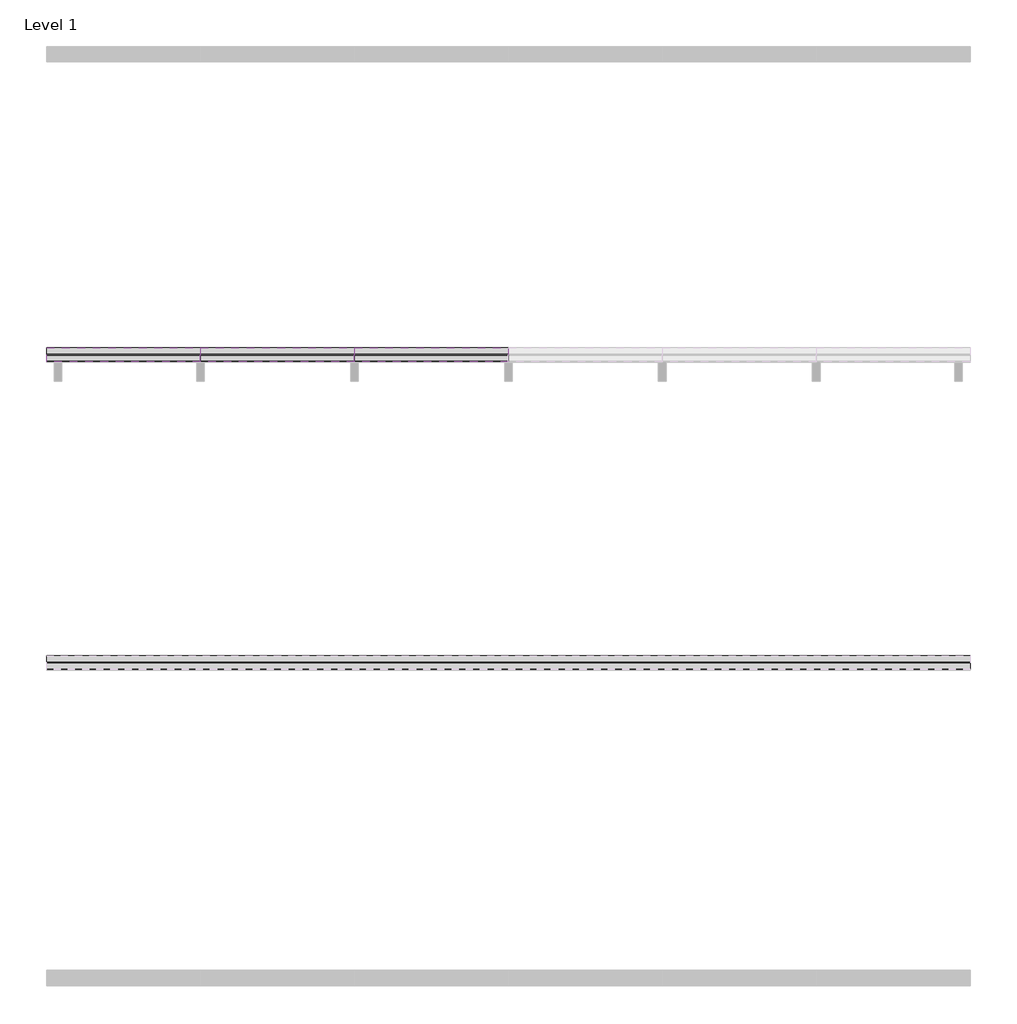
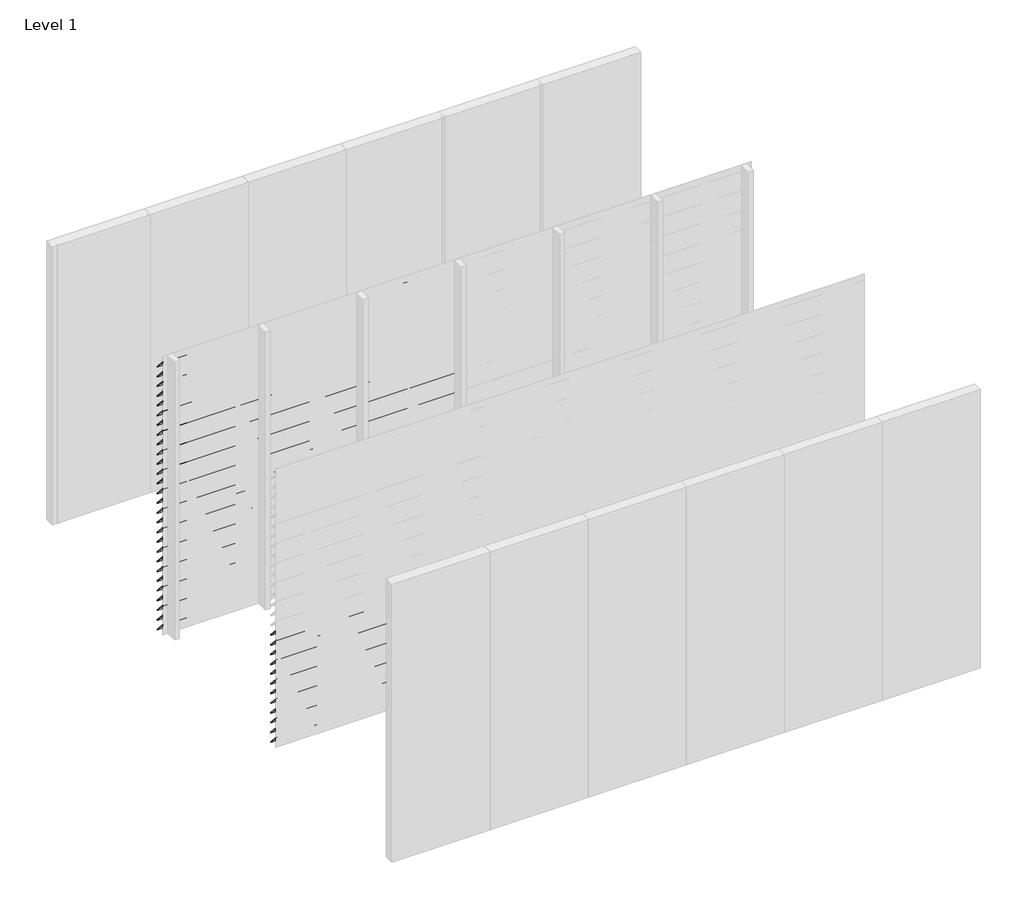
# One storey, part 2 of 9: 94 proxies.
"""IFC4 building model written with IfcOpenShell, lengths in millimetres."""

from ifc_helpers import new_model, si_unit, frame, origin, place, context, project, spatial, polyline, outline, extrude, element, save

model = new_model("IFC4")

# Units and contexts
model_context = context("Model", 3, world=origin())
ifc_project = project(units=[si_unit("LENGTHUNIT", "METRE", prefix="MILLI")], contexts=[model_context])

# Site, building, storey
site = spatial("IfcSite", under=ifc_project)
building = spatial("IfcBuilding", under=site)
storey = spatial("IfcBuildingStorey", under=building, Name="Level 1", Elevation=0.0)

# Proxies
placement = place(None, origin())
element("IfcBuildingElementProxy", 1, Name="Wall Sweeps", at=placement, inside=storey, context=model_context, shape_type="SweptSolid", body=[
    extrude(outline(polyline([(-17995.0, 2940.0), (-17995.0, 2935.6232888), (-17908.0, 2839.0), (-17908.0, 2829.0), (-17997.0, 2927.8445138), (-17997.0, 2940.0), (-17995.0, 2940.0)])), frame((2000.0000001, 0.0, 0.0), z_axis=(1.0, 0.0, 0.0), x_axis=(0.0, 1.0, 0.0)), (0.0, 0.0, 1.0), 999.9999999),
])
element("IfcBuildingElementProxy", 2, Name="Wall Sweeps", at=placement, inside=storey, context=model_context, shape_type="SweptSolid", body=[
    extrude(outline(polyline([(-17995.0, 2835.0), (-17995.0, 2830.6232888), (-17908.0, 2734.0), (-17908.0, 2724.0), (-17997.0, 2822.8445138), (-17997.0, 2835.0), (-17995.0, 2835.0)])), frame((2000.0000001, 0.0, 0.0), z_axis=(1.0, 0.0, 0.0), x_axis=(0.0, 1.0, 0.0)), (0.0, 0.0, 1.0), 999.9999999),
])
element("IfcBuildingElementProxy", 3, Name="Wall Sweeps", at=placement, inside=storey, context=model_context, shape_type="SweptSolid", body=[
    extrude(outline(polyline([(-17995.0, 2730.0), (-17995.0, 2725.6232888), (-17908.0, 2629.0), (-17908.0, 2619.0), (-17997.0, 2717.8445138), (-17997.0, 2730.0), (-17995.0, 2730.0)])), frame((2000.0000001, 0.0, 0.0), z_axis=(1.0, 0.0, 0.0), x_axis=(0.0, 1.0, 0.0)), (0.0, 0.0, 1.0), 999.9999999),
])
element("IfcBuildingElementProxy", 4, Name="Wall Sweeps", at=placement, inside=storey, context=model_context, shape_type="SweptSolid", body=[
    extrude(outline(polyline([(-17995.0, 2625.0), (-17995.0, 2620.6232888), (-17908.0, 2524.0), (-17908.0, 2514.0), (-17997.0, 2612.8445138), (-17997.0, 2625.0), (-17995.0, 2625.0)])), frame((2000.0000001, 0.0, 0.0), z_axis=(1.0, 0.0, 0.0), x_axis=(0.0, 1.0, 0.0)), (0.0, 0.0, 1.0), 999.9999999),
])
element("IfcBuildingElementProxy", 5, Name="Wall Sweeps", at=placement, inside=storey, context=model_context, shape_type="SweptSolid", body=[
    extrude(outline(polyline([(-17995.0, 2520.0), (-17995.0, 2515.6232888), (-17908.0, 2419.0), (-17908.0, 2409.0), (-17997.0, 2507.8445138), (-17997.0, 2520.0), (-17995.0, 2520.0)])), frame((2000.0000001, 0.0, 0.0), z_axis=(1.0, 0.0, 0.0), x_axis=(0.0, 1.0, 0.0)), (0.0, 0.0, 1.0), 999.9999999),
])
element("IfcBuildingElementProxy", 6, Name="Wall Sweeps", at=placement, inside=storey, context=model_context, shape_type="SweptSolid", body=[
    extrude(outline(polyline([(-17995.0, 2415.0), (-17995.0, 2410.6232888), (-17908.0, 2314.0), (-17908.0, 2304.0), (-17997.0, 2402.8445138), (-17997.0, 2415.0), (-17995.0, 2415.0)])), frame((2000.0000001, 0.0, 0.0), z_axis=(1.0, 0.0, 0.0), x_axis=(0.0, 1.0, 0.0)), (0.0, 0.0, 1.0), 999.9999999),
])
element("IfcBuildingElementProxy", 7, Name="Wall Sweeps", at=placement, inside=storey, context=model_context, shape_type="SweptSolid", body=[
    extrude(outline(polyline([(-17995.0, 2310.0), (-17995.0, 2305.6232888), (-17908.0, 2209.0), (-17908.0, 2199.0), (-17997.0, 2297.8445138), (-17997.0, 2310.0), (-17995.0, 2310.0)])), frame((2000.0000001, 0.0, 0.0), z_axis=(1.0, 0.0, 0.0), x_axis=(0.0, 1.0, 0.0)), (0.0, 0.0, 1.0), 999.9999999),
])
element("IfcBuildingElementProxy", 8, Name="Wall Sweeps", at=placement, inside=storey, context=model_context, shape_type="SweptSolid", body=[
    extrude(outline(polyline([(-17995.0, 2205.0), (-17995.0, 2200.6232888), (-17908.0, 2104.0), (-17908.0, 2094.0), (-17997.0, 2192.8445138), (-17997.0, 2205.0), (-17995.0, 2205.0)])), frame((2000.0000001, 0.0, 0.0), z_axis=(1.0, 0.0, 0.0), x_axis=(0.0, 1.0, 0.0)), (0.0, 0.0, 1.0), 999.9999999),
])
element("IfcBuildingElementProxy", 9, Name="Wall Sweeps", at=placement, inside=storey, context=model_context, shape_type="SweptSolid", body=[
    extrude(outline(polyline([(-17995.0, 2100.0), (-17995.0, 2095.6232888), (-17908.0, 1999.0), (-17908.0, 1989.0), (-17997.0, 2087.8445138), (-17997.0, 2100.0), (-17995.0, 2100.0)])), frame((2000.0000001, 0.0, 0.0), z_axis=(1.0, 0.0, 0.0), x_axis=(0.0, 1.0, 0.0)), (0.0, 0.0, 1.0), 999.9999999),
])
element("IfcBuildingElementProxy", 10, Name="Wall Sweeps", at=placement, inside=storey, context=model_context, shape_type="SweptSolid", body=[
    extrude(outline(polyline([(-17995.0, 1995.0), (-17995.0, 1990.6232888), (-17908.0, 1894.0), (-17908.0, 1884.0), (-17997.0, 1982.8445138), (-17997.0, 1995.0), (-17995.0, 1995.0)])), frame((2000.0000001, 0.0, 0.0), z_axis=(1.0, 0.0, 0.0), x_axis=(0.0, 1.0, 0.0)), (0.0, 0.0, 1.0), 999.9999999),
])
element("IfcBuildingElementProxy", 11, Name="Wall Sweeps", at=placement, inside=storey, context=model_context, shape_type="SweptSolid", body=[
    extrude(outline(polyline([(-17995.0, 1890.0), (-17995.0, 1885.6232888), (-17908.0, 1789.0), (-17908.0, 1779.0), (-17997.0, 1877.8445138), (-17997.0, 1890.0), (-17995.0, 1890.0)])), frame((2000.0000001, 0.0, 0.0), z_axis=(1.0, 0.0, 0.0), x_axis=(0.0, 1.0, 0.0)), (0.0, 0.0, 1.0), 999.9999999),
])
element("IfcBuildingElementProxy", 12, Name="Wall Sweeps", at=placement, inside=storey, context=model_context, shape_type="SweptSolid", body=[
    extrude(outline(polyline([(-17995.0, 1785.0), (-17995.0, 1780.6232888), (-17908.0, 1684.0), (-17908.0, 1674.0), (-17997.0, 1772.8445138), (-17997.0, 1785.0), (-17995.0, 1785.0)])), frame((2000.0000001, 0.0, 0.0), z_axis=(1.0, 0.0, 0.0), x_axis=(0.0, 1.0, 0.0)), (0.0, 0.0, 1.0), 999.9999999),
])
element("IfcBuildingElementProxy", 13, Name="Wall Sweeps", at=placement, inside=storey, context=model_context, shape_type="SweptSolid", body=[
    extrude(outline(polyline([(-17995.0, 1680.0), (-17995.0, 1675.6232888), (-17908.0, 1579.0), (-17908.0, 1569.0), (-17997.0, 1667.8445138), (-17997.0, 1680.0), (-17995.0, 1680.0)])), frame((2000.0000001, 0.0, 0.0), z_axis=(1.0, 0.0, 0.0), x_axis=(0.0, 1.0, 0.0)), (0.0, 0.0, 1.0), 999.9999999),
])
element("IfcBuildingElementProxy", 14, Name="Wall Sweeps", at=placement, inside=storey, context=model_context, shape_type="SweptSolid", body=[
    extrude(outline(polyline([(-17995.0, 1575.0), (-17995.0, 1570.6232888), (-17908.0, 1474.0), (-17908.0, 1464.0), (-17997.0, 1562.8445138), (-17997.0, 1575.0), (-17995.0, 1575.0)])), frame((2000.0000001, 0.0, 0.0), z_axis=(1.0, 0.0, 0.0), x_axis=(0.0, 1.0, 0.0)), (0.0, 0.0, 1.0), 999.9999999),
])
element("IfcBuildingElementProxy", 15, Name="Wall Sweeps", at=placement, inside=storey, context=model_context, shape_type="SweptSolid", body=[
    extrude(outline(polyline([(-17995.0, 1470.0), (-17995.0, 1465.6232888), (-17908.0, 1369.0), (-17908.0, 1359.0), (-17997.0, 1457.8445138), (-17997.0, 1470.0), (-17995.0, 1470.0)])), frame((2000.0000001, 0.0, 0.0), z_axis=(1.0, 0.0, 0.0), x_axis=(0.0, 1.0, 0.0)), (0.0, 0.0, 1.0), 999.9999999),
])
element("IfcBuildingElementProxy", 16, Name="Wall Sweeps", at=placement, inside=storey, context=model_context, shape_type="SweptSolid", body=[
    extrude(outline(polyline([(-17995.0, 1365.0), (-17995.0, 1360.6232888), (-17908.0, 1264.0), (-17908.0, 1254.0), (-17997.0, 1352.8445138), (-17997.0, 1365.0), (-17995.0, 1365.0)])), frame((2000.0000001, 0.0, 0.0), z_axis=(1.0, 0.0, 0.0), x_axis=(0.0, 1.0, 0.0)), (0.0, 0.0, 1.0), 999.9999999),
])
element("IfcBuildingElementProxy", 17, Name="Wall Sweeps", at=placement, inside=storey, context=model_context, shape_type="SweptSolid", body=[
    extrude(outline(polyline([(-17995.0, 1260.0), (-17995.0, 1255.6232888), (-17908.0, 1159.0), (-17908.0, 1149.0), (-17997.0, 1247.8445138), (-17997.0, 1260.0), (-17995.0, 1260.0)])), frame((2000.0000001, 0.0, 0.0), z_axis=(1.0, 0.0, 0.0), x_axis=(0.0, 1.0, 0.0)), (0.0, 0.0, 1.0), 999.9999999),
])
element("IfcBuildingElementProxy", 18, Name="Wall Sweeps", at=placement, inside=storey, context=model_context, shape_type="SweptSolid", body=[
    extrude(outline(polyline([(-17995.0, 1155.0), (-17995.0, 1150.6232888), (-17908.0, 1054.0), (-17908.0, 1044.0), (-17997.0, 1142.8445138), (-17997.0, 1155.0), (-17995.0, 1155.0)])), frame((2000.0000001, 0.0, 0.0), z_axis=(1.0, 0.0, 0.0), x_axis=(0.0, 1.0, 0.0)), (0.0, 0.0, 1.0), 999.9999999),
])
element("IfcBuildingElementProxy", 19, Name="Wall Sweeps", at=placement, inside=storey, context=model_context, shape_type="SweptSolid", body=[
    extrude(outline(polyline([(-17995.0, 1050.0), (-17995.0, 1045.6232888), (-17908.0, 949.0), (-17908.0, 939.0), (-17997.0, 1037.8445138), (-17997.0, 1050.0), (-17995.0, 1050.0)])), frame((2000.0000001, 0.0, 0.0), z_axis=(1.0, 0.0, 0.0), x_axis=(0.0, 1.0, 0.0)), (0.0, 0.0, 1.0), 999.9999999),
])
element("IfcBuildingElementProxy", 20, Name="Wall Sweeps", at=placement, inside=storey, context=model_context, shape_type="SweptSolid", body=[
    extrude(outline(polyline([(-17995.0, 945.0), (-17995.0, 940.6232888), (-17908.0, 844.0), (-17908.0, 834.0), (-17997.0, 932.8445138), (-17997.0, 945.0), (-17995.0, 945.0)])), frame((2000.0000001, 0.0, 0.0), z_axis=(1.0, 0.0, 0.0), x_axis=(0.0, 1.0, 0.0)), (0.0, 0.0, 1.0), 999.9999999),
])
element("IfcBuildingElementProxy", 21, Name="Wall Sweeps", at=placement, inside=storey, context=model_context, shape_type="SweptSolid", body=[
    extrude(outline(polyline([(-17995.0, 840.0), (-17995.0, 835.6232888), (-17908.0, 739.0), (-17908.0, 729.0), (-17997.0, 827.8445138), (-17997.0, 840.0), (-17995.0, 840.0)])), frame((2000.0000001, 0.0, 0.0), z_axis=(1.0, 0.0, 0.0), x_axis=(0.0, 1.0, 0.0)), (0.0, 0.0, 1.0), 999.9999999),
])
element("IfcBuildingElementProxy", 22, Name="Wall Sweeps", at=placement, inside=storey, context=model_context, shape_type="SweptSolid", body=[
    extrude(outline(polyline([(-17995.0, 735.0), (-17995.0, 730.6232888), (-17908.0, 634.0), (-17908.0, 624.0), (-17997.0, 722.8445138), (-17997.0, 735.0), (-17995.0, 735.0)])), frame((2000.0000001, 0.0, 0.0), z_axis=(1.0, 0.0, 0.0), x_axis=(0.0, 1.0, 0.0)), (0.0, 0.0, 1.0), 999.9999999),
])
element("IfcBuildingElementProxy", 23, Name="Wall Sweeps", at=placement, inside=storey, context=model_context, shape_type="SweptSolid", body=[
    extrude(outline(polyline([(-17995.0, 630.0), (-17995.0, 625.6232888), (-17908.0, 529.0), (-17908.0, 519.0), (-17997.0, 617.8445138), (-17997.0, 630.0), (-17995.0, 630.0)])), frame((2000.0000001, 0.0, 0.0), z_axis=(1.0, 0.0, 0.0), x_axis=(0.0, 1.0, 0.0)), (0.0, 0.0, 1.0), 999.9999999),
])
element("IfcBuildingElementProxy", 24, Name="Wall Sweeps", at=placement, inside=storey, context=model_context, shape_type="SweptSolid", body=[
    extrude(outline(polyline([(-17995.0, 525.0), (-17995.0, 520.6232888), (-17908.0, 424.0), (-17908.0, 414.0), (-17997.0, 512.8445138), (-17997.0, 525.0), (-17995.0, 525.0)])), frame((2000.0000001, 0.0, 0.0), z_axis=(1.0, 0.0, 0.0), x_axis=(0.0, 1.0, 0.0)), (0.0, 0.0, 1.0), 999.9999999),
])
element("IfcBuildingElementProxy", 25, Name="Wall Sweeps", at=placement, inside=storey, context=model_context, shape_type="SweptSolid", body=[
    extrude(outline(polyline([(-17995.0, 420.0), (-17995.0, 415.6232888), (-17908.0, 319.0), (-17908.0, 309.0), (-17997.0, 407.8445138), (-17997.0, 420.0), (-17995.0, 420.0)])), frame((2000.0000001, 0.0, 0.0), z_axis=(1.0, 0.0, 0.0), x_axis=(0.0, 1.0, 0.0)), (0.0, 0.0, 1.0), 999.9999999),
])
element("IfcBuildingElementProxy", 26, Name="Wall Sweeps", at=placement, inside=storey, context=model_context, shape_type="SweptSolid", body=[
    extrude(outline(polyline([(-17995.0, 315.0), (-17995.0, 310.6232888), (-17908.0, 214.0), (-17908.0, 204.0), (-17997.0, 302.8445138), (-17997.0, 315.0), (-17995.0, 315.0)])), frame((2000.0000001, 0.0, 0.0), z_axis=(1.0, 0.0, 0.0), x_axis=(0.0, 1.0, 0.0)), (0.0, 0.0, 1.0), 999.9999999),
])
element("IfcBuildingElementProxy", 27, Name="Wall Sweeps", at=placement, inside=storey, context=model_context, shape_type="SweptSolid", body=[
    extrude(outline(polyline([(-17995.0, 2940.0), (-17995.0, 2935.6232888), (-17908.0, 2839.0), (-17908.0, 2829.0), (-17997.0, 2927.8445138), (-17997.0, 2940.0), (-17995.0, 2940.0)])), frame((1000.0000002, 0.0, 0.0), z_axis=(1.0, 0.0, 0.0), x_axis=(0.0, 1.0, 0.0)), (0.0, 0.0, 1.0), 999.9999999),
])
element("IfcBuildingElementProxy", 28, Name="Wall Sweeps", at=placement, inside=storey, context=model_context, shape_type="SweptSolid", body=[
    extrude(outline(polyline([(-17995.0, 2835.0), (-17995.0, 2830.6232888), (-17908.0, 2734.0), (-17908.0, 2724.0), (-17997.0, 2822.8445138), (-17997.0, 2835.0), (-17995.0, 2835.0)])), frame((1000.0000002, 0.0, 0.0), z_axis=(1.0, 0.0, 0.0), x_axis=(0.0, 1.0, 0.0)), (0.0, 0.0, 1.0), 999.9999999),
])
element("IfcBuildingElementProxy", 29, Name="Wall Sweeps", at=placement, inside=storey, context=model_context, shape_type="SweptSolid", body=[
    extrude(outline(polyline([(-17995.0, 2730.0), (-17995.0, 2725.6232888), (-17908.0, 2629.0), (-17908.0, 2619.0), (-17997.0, 2717.8445138), (-17997.0, 2730.0), (-17995.0, 2730.0)])), frame((1000.0000002, 0.0, 0.0), z_axis=(1.0, 0.0, 0.0), x_axis=(0.0, 1.0, 0.0)), (0.0, 0.0, 1.0), 999.9999999),
])
element("IfcBuildingElementProxy", 30, Name="Wall Sweeps", at=placement, inside=storey, context=model_context, shape_type="SweptSolid", body=[
    extrude(outline(polyline([(-17995.0, 2625.0), (-17995.0, 2620.6232888), (-17908.0, 2524.0), (-17908.0, 2514.0), (-17997.0, 2612.8445138), (-17997.0, 2625.0), (-17995.0, 2625.0)])), frame((1000.0000002, 0.0, 0.0), z_axis=(1.0, 0.0, 0.0), x_axis=(0.0, 1.0, 0.0)), (0.0, 0.0, 1.0), 999.9999999),
])
element("IfcBuildingElementProxy", 31, Name="Wall Sweeps", at=placement, inside=storey, context=model_context, shape_type="SweptSolid", body=[
    extrude(outline(polyline([(-17995.0, 2520.0), (-17995.0, 2515.6232888), (-17908.0, 2419.0), (-17908.0, 2409.0), (-17997.0, 2507.8445138), (-17997.0, 2520.0), (-17995.0, 2520.0)])), frame((1000.0000002, 0.0, 0.0), z_axis=(1.0, 0.0, 0.0), x_axis=(0.0, 1.0, 0.0)), (0.0, 0.0, 1.0), 999.9999999),
])
element("IfcBuildingElementProxy", 32, Name="Wall Sweeps", at=placement, inside=storey, context=model_context, shape_type="SweptSolid", body=[
    extrude(outline(polyline([(-17995.0, 2415.0), (-17995.0, 2410.6232888), (-17908.0, 2314.0), (-17908.0, 2304.0), (-17997.0, 2402.8445138), (-17997.0, 2415.0), (-17995.0, 2415.0)])), frame((1000.0000002, 0.0, 0.0), z_axis=(1.0, 0.0, 0.0), x_axis=(0.0, 1.0, 0.0)), (0.0, 0.0, 1.0), 999.9999999),
])
element("IfcBuildingElementProxy", 33, Name="Wall Sweeps", at=placement, inside=storey, context=model_context, shape_type="SweptSolid", body=[
    extrude(outline(polyline([(-17995.0, 2310.0), (-17995.0, 2305.6232888), (-17908.0, 2209.0), (-17908.0, 2199.0), (-17997.0, 2297.8445138), (-17997.0, 2310.0), (-17995.0, 2310.0)])), frame((1000.0000002, 0.0, 0.0), z_axis=(1.0, 0.0, 0.0), x_axis=(0.0, 1.0, 0.0)), (0.0, 0.0, 1.0), 999.9999999),
])
element("IfcBuildingElementProxy", 34, Name="Wall Sweeps", at=placement, inside=storey, context=model_context, shape_type="SweptSolid", body=[
    extrude(outline(polyline([(-17995.0, 2205.0), (-17995.0, 2200.6232888), (-17908.0, 2104.0), (-17908.0, 2094.0), (-17997.0, 2192.8445138), (-17997.0, 2205.0), (-17995.0, 2205.0)])), frame((1000.0000002, 0.0, 0.0), z_axis=(1.0, 0.0, 0.0), x_axis=(0.0, 1.0, 0.0)), (0.0, 0.0, 1.0), 999.9999999),
])
element("IfcBuildingElementProxy", 35, Name="Wall Sweeps", at=placement, inside=storey, context=model_context, shape_type="SweptSolid", body=[
    extrude(outline(polyline([(-17995.0, 2100.0), (-17995.0, 2095.6232888), (-17908.0, 1999.0), (-17908.0, 1989.0), (-17997.0, 2087.8445138), (-17997.0, 2100.0), (-17995.0, 2100.0)])), frame((1000.0000002, 0.0, 0.0), z_axis=(1.0, 0.0, 0.0), x_axis=(0.0, 1.0, 0.0)), (0.0, 0.0, 1.0), 999.9999999),
])
element("IfcBuildingElementProxy", 36, Name="Wall Sweeps", at=placement, inside=storey, context=model_context, shape_type="SweptSolid", body=[
    extrude(outline(polyline([(-17995.0, 1995.0), (-17995.0, 1990.6232888), (-17908.0, 1894.0), (-17908.0, 1884.0), (-17997.0, 1982.8445138), (-17997.0, 1995.0), (-17995.0, 1995.0)])), frame((1000.0000002, 0.0, 0.0), z_axis=(1.0, 0.0, 0.0), x_axis=(0.0, 1.0, 0.0)), (0.0, 0.0, 1.0), 999.9999999),
])
element("IfcBuildingElementProxy", 37, Name="Wall Sweeps", at=placement, inside=storey, context=model_context, shape_type="SweptSolid", body=[
    extrude(outline(polyline([(-17995.0, 1890.0), (-17995.0, 1885.6232888), (-17908.0, 1789.0), (-17908.0, 1779.0), (-17997.0, 1877.8445138), (-17997.0, 1890.0), (-17995.0, 1890.0)])), frame((1000.0000002, 0.0, 0.0), z_axis=(1.0, 0.0, 0.0), x_axis=(0.0, 1.0, 0.0)), (0.0, 0.0, 1.0), 999.9999999),
])
element("IfcBuildingElementProxy", 38, Name="Wall Sweeps", at=placement, inside=storey, context=model_context, shape_type="SweptSolid", body=[
    extrude(outline(polyline([(-17995.0, 1785.0), (-17995.0, 1780.6232888), (-17908.0, 1684.0), (-17908.0, 1674.0), (-17997.0, 1772.8445138), (-17997.0, 1785.0), (-17995.0, 1785.0)])), frame((1000.0000002, 0.0, 0.0), z_axis=(1.0, 0.0, 0.0), x_axis=(0.0, 1.0, 0.0)), (0.0, 0.0, 1.0), 999.9999999),
])
element("IfcBuildingElementProxy", 39, Name="Wall Sweeps", at=placement, inside=storey, context=model_context, shape_type="SweptSolid", body=[
    extrude(outline(polyline([(-17995.0, 1680.0), (-17995.0, 1675.6232888), (-17908.0, 1579.0), (-17908.0, 1569.0), (-17997.0, 1667.8445138), (-17997.0, 1680.0), (-17995.0, 1680.0)])), frame((1000.0000002, 0.0, 0.0), z_axis=(1.0, 0.0, 0.0), x_axis=(0.0, 1.0, 0.0)), (0.0, 0.0, 1.0), 999.9999999),
])
element("IfcBuildingElementProxy", 40, Name="Wall Sweeps", at=placement, inside=storey, context=model_context, shape_type="SweptSolid", body=[
    extrude(outline(polyline([(-17995.0, 1575.0), (-17995.0, 1570.6232888), (-17908.0, 1474.0), (-17908.0, 1464.0), (-17997.0, 1562.8445138), (-17997.0, 1575.0), (-17995.0, 1575.0)])), frame((1000.0000002, 0.0, 0.0), z_axis=(1.0, 0.0, 0.0), x_axis=(0.0, 1.0, 0.0)), (0.0, 0.0, 1.0), 999.9999999),
])
element("IfcBuildingElementProxy", 41, Name="Wall Sweeps", at=placement, inside=storey, context=model_context, shape_type="SweptSolid", body=[
    extrude(outline(polyline([(-17995.0, 1470.0), (-17995.0, 1465.6232888), (-17908.0, 1369.0), (-17908.0, 1359.0), (-17997.0, 1457.8445138), (-17997.0, 1470.0), (-17995.0, 1470.0)])), frame((1000.0000002, 0.0, 0.0), z_axis=(1.0, 0.0, 0.0), x_axis=(0.0, 1.0, 0.0)), (0.0, 0.0, 1.0), 999.9999999),
])
element("IfcBuildingElementProxy", 42, Name="Wall Sweeps", at=placement, inside=storey, context=model_context, shape_type="SweptSolid", body=[
    extrude(outline(polyline([(-17995.0, 1365.0), (-17995.0, 1360.6232888), (-17908.0, 1264.0), (-17908.0, 1254.0), (-17997.0, 1352.8445138), (-17997.0, 1365.0), (-17995.0, 1365.0)])), frame((1000.0000002, 0.0, 0.0), z_axis=(1.0, 0.0, 0.0), x_axis=(0.0, 1.0, 0.0)), (0.0, 0.0, 1.0), 999.9999999),
])
element("IfcBuildingElementProxy", 43, Name="Wall Sweeps", at=placement, inside=storey, context=model_context, shape_type="SweptSolid", body=[
    extrude(outline(polyline([(-17995.0, 1260.0), (-17995.0, 1255.6232888), (-17908.0, 1159.0), (-17908.0, 1149.0), (-17997.0, 1247.8445138), (-17997.0, 1260.0), (-17995.0, 1260.0)])), frame((1000.0000002, 0.0, 0.0), z_axis=(1.0, 0.0, 0.0), x_axis=(0.0, 1.0, 0.0)), (0.0, 0.0, 1.0), 999.9999999),
])
element("IfcBuildingElementProxy", 44, Name="Wall Sweeps", at=placement, inside=storey, context=model_context, shape_type="SweptSolid", body=[
    extrude(outline(polyline([(-17995.0, 1155.0), (-17995.0, 1150.6232888), (-17908.0, 1054.0), (-17908.0, 1044.0), (-17997.0, 1142.8445138), (-17997.0, 1155.0), (-17995.0, 1155.0)])), frame((1000.0000002, 0.0, 0.0), z_axis=(1.0, 0.0, 0.0), x_axis=(0.0, 1.0, 0.0)), (0.0, 0.0, 1.0), 999.9999999),
])
element("IfcBuildingElementProxy", 45, Name="Wall Sweeps", at=placement, inside=storey, context=model_context, shape_type="SweptSolid", body=[
    extrude(outline(polyline([(-17995.0, 1050.0), (-17995.0, 1045.6232888), (-17908.0, 949.0), (-17908.0, 939.0), (-17997.0, 1037.8445138), (-17997.0, 1050.0), (-17995.0, 1050.0)])), frame((1000.0000002, 0.0, 0.0), z_axis=(1.0, 0.0, 0.0), x_axis=(0.0, 1.0, 0.0)), (0.0, 0.0, 1.0), 999.9999999),
])
element("IfcBuildingElementProxy", 46, Name="Wall Sweeps", at=placement, inside=storey, context=model_context, shape_type="SweptSolid", body=[
    extrude(outline(polyline([(-17995.0, 945.0), (-17995.0, 940.6232888), (-17908.0, 844.0), (-17908.0, 834.0), (-17997.0, 932.8445138), (-17997.0, 945.0), (-17995.0, 945.0)])), frame((1000.0000002, 0.0, 0.0), z_axis=(1.0, 0.0, 0.0), x_axis=(0.0, 1.0, 0.0)), (0.0, 0.0, 1.0), 999.9999999),
])
element("IfcBuildingElementProxy", 47, Name="Wall Sweeps", at=placement, inside=storey, context=model_context, shape_type="SweptSolid", body=[
    extrude(outline(polyline([(-17995.0, 840.0), (-17995.0, 835.6232888), (-17908.0, 739.0), (-17908.0, 729.0), (-17997.0, 827.8445138), (-17997.0, 840.0), (-17995.0, 840.0)])), frame((1000.0000002, 0.0, 0.0), z_axis=(1.0, 0.0, 0.0), x_axis=(0.0, 1.0, 0.0)), (0.0, 0.0, 1.0), 999.9999999),
])
element("IfcBuildingElementProxy", 48, Name="Wall Sweeps", at=placement, inside=storey, context=model_context, shape_type="SweptSolid", body=[
    extrude(outline(polyline([(-17995.0, 735.0), (-17995.0, 730.6232888), (-17908.0, 634.0), (-17908.0, 624.0), (-17997.0, 722.8445138), (-17997.0, 735.0), (-17995.0, 735.0)])), frame((1000.0000002, 0.0, 0.0), z_axis=(1.0, 0.0, 0.0), x_axis=(0.0, 1.0, 0.0)), (0.0, 0.0, 1.0), 999.9999999),
])
element("IfcBuildingElementProxy", 49, Name="Wall Sweeps", at=placement, inside=storey, context=model_context, shape_type="SweptSolid", body=[
    extrude(outline(polyline([(-17995.0, 630.0), (-17995.0, 625.6232888), (-17908.0, 529.0), (-17908.0, 519.0), (-17997.0, 617.8445138), (-17997.0, 630.0), (-17995.0, 630.0)])), frame((1000.0000002, 0.0, 0.0), z_axis=(1.0, 0.0, 0.0), x_axis=(0.0, 1.0, 0.0)), (0.0, 0.0, 1.0), 999.9999999),
])
element("IfcBuildingElementProxy", 50, Name="Wall Sweeps", at=placement, inside=storey, context=model_context, shape_type="SweptSolid", body=[
    extrude(outline(polyline([(-17995.0, 525.0), (-17995.0, 520.6232888), (-17908.0, 424.0), (-17908.0, 414.0), (-17997.0, 512.8445138), (-17997.0, 525.0), (-17995.0, 525.0)])), frame((1000.0000002, 0.0, 0.0), z_axis=(1.0, 0.0, 0.0), x_axis=(0.0, 1.0, 0.0)), (0.0, 0.0, 1.0), 999.9999999),
])
element("IfcBuildingElementProxy", 51, Name="Wall Sweeps", at=placement, inside=storey, context=model_context, shape_type="SweptSolid", body=[
    extrude(outline(polyline([(-17995.0, 420.0), (-17995.0, 415.6232888), (-17908.0, 319.0), (-17908.0, 309.0), (-17997.0, 407.8445138), (-17997.0, 420.0), (-17995.0, 420.0)])), frame((1000.0000002, 0.0, 0.0), z_axis=(1.0, 0.0, 0.0), x_axis=(0.0, 1.0, 0.0)), (0.0, 0.0, 1.0), 999.9999999),
])
element("IfcBuildingElementProxy", 52, Name="Wall Sweeps", at=placement, inside=storey, context=model_context, shape_type="SweptSolid", body=[
    extrude(outline(polyline([(-17995.0, 315.0), (-17995.0, 310.6232888), (-17908.0, 214.0), (-17908.0, 204.0), (-17997.0, 302.8445138), (-17997.0, 315.0), (-17995.0, 315.0)])), frame((1000.0000002, 0.0, 0.0), z_axis=(1.0, 0.0, 0.0), x_axis=(0.0, 1.0, 0.0)), (0.0, 0.0, 1.0), 999.9999999),
])
element("IfcBuildingElementProxy", 53, Name="Wall Sweeps", at=placement, inside=storey, context=model_context, shape_type="SweptSolid", body=[
    extrude(outline(polyline([(-17995.0, 210.0), (-17995.0, 205.6232888), (-17908.0, 109.0), (-17908.0, 99.0), (-17997.0, 197.8445138), (-17997.0, 210.0), (-17995.0, 210.0)])), frame((1000.0000002, 0.0, 0.0), z_axis=(1.0, 0.0, 0.0), x_axis=(0.0, 1.0, 0.0)), (0.0, 0.0, 1.0), 999.9999999),
])
element("IfcBuildingElementProxy", 54, Name="Wall Sweeps", at=placement, inside=storey, context=model_context, shape_type="SweptSolid", body=[
    extrude(outline(polyline([(-17995.0, 105.0), (-17995.0, 100.6232888), (-17908.0, 4.0), (-17908.0, -6.0), (-17997.0, 92.8445138), (-17997.0, 105.0), (-17995.0, 105.0)])), frame((1000.0000002, 0.0, 0.0), z_axis=(1.0, 0.0, 0.0), x_axis=(0.0, 1.0, 0.0)), (0.0, 0.0, 1.0), 999.9999999),
])
element("IfcBuildingElementProxy", 55, Name="Wall Sweeps", at=placement, inside=storey, context=model_context, shape_type="SweptSolid", body=[
    extrude(outline(polyline([(-17995.0, 2940.0), (-17995.0, 2935.6232888), (-17908.0, 2839.0), (-17908.0, 2829.0), (-17997.0, 2927.8445138), (-17997.0, 2940.0), (-17995.0, 2940.0)])), frame((0.0, 0.0, 0.0), z_axis=(1.0, 0.0, 0.0), x_axis=(0.0, 1.0, 0.0)), (0.0, 0.0, 1.0), 1000.0000002),
])
element("IfcBuildingElementProxy", 56, Name="Wall Sweeps", at=placement, inside=storey, context=model_context, shape_type="SweptSolid", body=[
    extrude(outline(polyline([(-17995.0, 2835.0), (-17995.0, 2830.6232888), (-17908.0, 2734.0), (-17908.0, 2724.0), (-17997.0, 2822.8445138), (-17997.0, 2835.0), (-17995.0, 2835.0)])), frame((0.0, 0.0, 0.0), z_axis=(1.0, 0.0, 0.0), x_axis=(0.0, 1.0, 0.0)), (0.0, 0.0, 1.0), 1000.0000002),
])
element("IfcBuildingElementProxy", 57, Name="Wall Sweeps", at=placement, inside=storey, context=model_context, shape_type="SweptSolid", body=[
    extrude(outline(polyline([(-17995.0, 2730.0), (-17995.0, 2725.6232888), (-17908.0, 2629.0), (-17908.0, 2619.0), (-17997.0, 2717.8445138), (-17997.0, 2730.0), (-17995.0, 2730.0)])), frame((0.0, 0.0, 0.0), z_axis=(1.0, 0.0, 0.0), x_axis=(0.0, 1.0, 0.0)), (0.0, 0.0, 1.0), 1000.0000002),
])
element("IfcBuildingElementProxy", 58, Name="Wall Sweeps", at=placement, inside=storey, context=model_context, shape_type="SweptSolid", body=[
    extrude(outline(polyline([(-17995.0, 2625.0), (-17995.0, 2620.6232888), (-17908.0, 2524.0), (-17908.0, 2514.0), (-17997.0, 2612.8445138), (-17997.0, 2625.0), (-17995.0, 2625.0)])), frame((0.0, 0.0, 0.0), z_axis=(1.0, 0.0, 0.0), x_axis=(0.0, 1.0, 0.0)), (0.0, 0.0, 1.0), 1000.0000002),
])
element("IfcBuildingElementProxy", 59, Name="Wall Sweeps", at=placement, inside=storey, context=model_context, shape_type="SweptSolid", body=[
    extrude(outline(polyline([(-17995.0, 2520.0), (-17995.0, 2515.6232888), (-17908.0, 2419.0), (-17908.0, 2409.0), (-17997.0, 2507.8445138), (-17997.0, 2520.0), (-17995.0, 2520.0)])), frame((0.0, 0.0, 0.0), z_axis=(1.0, 0.0, 0.0), x_axis=(0.0, 1.0, 0.0)), (0.0, 0.0, 1.0), 1000.0000002),
])
element("IfcBuildingElementProxy", 60, Name="Wall Sweeps", at=placement, inside=storey, context=model_context, shape_type="SweptSolid", body=[
    extrude(outline(polyline([(-17995.0, 2415.0), (-17995.0, 2410.6232888), (-17908.0, 2314.0), (-17908.0, 2304.0), (-17997.0, 2402.8445138), (-17997.0, 2415.0), (-17995.0, 2415.0)])), frame((0.0, 0.0, 0.0), z_axis=(1.0, 0.0, 0.0), x_axis=(0.0, 1.0, 0.0)), (0.0, 0.0, 1.0), 1000.0000002),
])
element("IfcBuildingElementProxy", 61, Name="Wall Sweeps", at=placement, inside=storey, context=model_context, shape_type="SweptSolid", body=[
    extrude(outline(polyline([(-17995.0, 2310.0), (-17995.0, 2305.6232888), (-17908.0, 2209.0), (-17908.0, 2199.0), (-17997.0, 2297.8445138), (-17997.0, 2310.0), (-17995.0, 2310.0)])), frame((0.0, 0.0, 0.0), z_axis=(1.0, 0.0, 0.0), x_axis=(0.0, 1.0, 0.0)), (0.0, 0.0, 1.0), 1000.0000002),
])
element("IfcBuildingElementProxy", 62, Name="Wall Sweeps", at=placement, inside=storey, context=model_context, shape_type="SweptSolid", body=[
    extrude(outline(polyline([(-17995.0, 2205.0), (-17995.0, 2200.6232888), (-17908.0, 2104.0), (-17908.0, 2094.0), (-17997.0, 2192.8445138), (-17997.0, 2205.0), (-17995.0, 2205.0)])), frame((0.0, 0.0, 0.0), z_axis=(1.0, 0.0, 0.0), x_axis=(0.0, 1.0, 0.0)), (0.0, 0.0, 1.0), 1000.0000002),
])
element("IfcBuildingElementProxy", 63, Name="Wall Sweeps", at=placement, inside=storey, context=model_context, shape_type="SweptSolid", body=[
    extrude(outline(polyline([(-17995.0, 2100.0), (-17995.0, 2095.6232888), (-17908.0, 1999.0), (-17908.0, 1989.0), (-17997.0, 2087.8445138), (-17997.0, 2100.0), (-17995.0, 2100.0)])), frame((0.0, 0.0, 0.0), z_axis=(1.0, 0.0, 0.0), x_axis=(0.0, 1.0, 0.0)), (0.0, 0.0, 1.0), 1000.0000002),
])
element("IfcBuildingElementProxy", 64, Name="Wall Sweeps", at=placement, inside=storey, context=model_context, shape_type="SweptSolid", body=[
    extrude(outline(polyline([(-17995.0, 1995.0), (-17995.0, 1990.6232888), (-17908.0, 1894.0), (-17908.0, 1884.0), (-17997.0, 1982.8445138), (-17997.0, 1995.0), (-17995.0, 1995.0)])), frame((0.0, 0.0, 0.0), z_axis=(1.0, 0.0, 0.0), x_axis=(0.0, 1.0, 0.0)), (0.0, 0.0, 1.0), 1000.0000002),
])
element("IfcBuildingElementProxy", 65, Name="Wall Sweeps", at=placement, inside=storey, context=model_context, shape_type="SweptSolid", body=[
    extrude(outline(polyline([(-17995.0, 1890.0), (-17995.0, 1885.6232888), (-17908.0, 1789.0), (-17908.0, 1779.0), (-17997.0, 1877.8445138), (-17997.0, 1890.0), (-17995.0, 1890.0)])), frame((0.0, 0.0, 0.0), z_axis=(1.0, 0.0, 0.0), x_axis=(0.0, 1.0, 0.0)), (0.0, 0.0, 1.0), 1000.0000002),
])
element("IfcBuildingElementProxy", 66, Name="Wall Sweeps", at=placement, inside=storey, context=model_context, shape_type="SweptSolid", body=[
    extrude(outline(polyline([(-17995.0, 1785.0), (-17995.0, 1780.6232888), (-17908.0, 1684.0), (-17908.0, 1674.0), (-17997.0, 1772.8445138), (-17997.0, 1785.0), (-17995.0, 1785.0)])), frame((0.0, 0.0, 0.0), z_axis=(1.0, 0.0, 0.0), x_axis=(0.0, 1.0, 0.0)), (0.0, 0.0, 1.0), 1000.0000002),
])
element("IfcBuildingElementProxy", 67, Name="Wall Sweeps", at=placement, inside=storey, context=model_context, shape_type="SweptSolid", body=[
    extrude(outline(polyline([(-17995.0, 1680.0), (-17995.0, 1675.6232888), (-17908.0, 1579.0), (-17908.0, 1569.0), (-17997.0, 1667.8445138), (-17997.0, 1680.0), (-17995.0, 1680.0)])), frame((0.0, 0.0, 0.0), z_axis=(1.0, 0.0, 0.0), x_axis=(0.0, 1.0, 0.0)), (0.0, 0.0, 1.0), 1000.0000002),
])
element("IfcBuildingElementProxy", 68, Name="Wall Sweeps", at=placement, inside=storey, context=model_context, shape_type="SweptSolid", body=[
    extrude(outline(polyline([(-17995.0, 1575.0), (-17995.0, 1570.6232888), (-17908.0, 1474.0), (-17908.0, 1464.0), (-17997.0, 1562.8445138), (-17997.0, 1575.0), (-17995.0, 1575.0)])), frame((0.0, 0.0, 0.0), z_axis=(1.0, 0.0, 0.0), x_axis=(0.0, 1.0, 0.0)), (0.0, 0.0, 1.0), 1000.0000002),
])
element("IfcBuildingElementProxy", 69, Name="Wall Sweeps", at=placement, inside=storey, context=model_context, shape_type="SweptSolid", body=[
    extrude(outline(polyline([(-17995.0, 1470.0), (-17995.0, 1465.6232888), (-17908.0, 1369.0), (-17908.0, 1359.0), (-17997.0, 1457.8445138), (-17997.0, 1470.0), (-17995.0, 1470.0)])), frame((0.0, 0.0, 0.0), z_axis=(1.0, 0.0, 0.0), x_axis=(0.0, 1.0, 0.0)), (0.0, 0.0, 1.0), 1000.0000002),
])
element("IfcBuildingElementProxy", 70, Name="Wall Sweeps", at=placement, inside=storey, context=model_context, shape_type="SweptSolid", body=[
    extrude(outline(polyline([(-17995.0, 1365.0), (-17995.0, 1360.6232888), (-17908.0, 1264.0), (-17908.0, 1254.0), (-17997.0, 1352.8445138), (-17997.0, 1365.0), (-17995.0, 1365.0)])), frame((0.0, 0.0, 0.0), z_axis=(1.0, 0.0, 0.0), x_axis=(0.0, 1.0, 0.0)), (0.0, 0.0, 1.0), 1000.0000002),
])
element("IfcBuildingElementProxy", 71, Name="Wall Sweeps", at=placement, inside=storey, context=model_context, shape_type="SweptSolid", body=[
    extrude(outline(polyline([(-17995.0, 1260.0), (-17995.0, 1255.6232888), (-17908.0, 1159.0), (-17908.0, 1149.0), (-17997.0, 1247.8445138), (-17997.0, 1260.0), (-17995.0, 1260.0)])), frame((0.0, 0.0, 0.0), z_axis=(1.0, 0.0, 0.0), x_axis=(0.0, 1.0, 0.0)), (0.0, 0.0, 1.0), 1000.0000002),
])
element("IfcBuildingElementProxy", 72, Name="Wall Sweeps", at=placement, inside=storey, context=model_context, shape_type="SweptSolid", body=[
    extrude(outline(polyline([(-17995.0, 1155.0), (-17995.0, 1150.6232888), (-17908.0, 1054.0), (-17908.0, 1044.0), (-17997.0, 1142.8445138), (-17997.0, 1155.0), (-17995.0, 1155.0)])), frame((0.0, 0.0, 0.0), z_axis=(1.0, 0.0, 0.0), x_axis=(0.0, 1.0, 0.0)), (0.0, 0.0, 1.0), 1000.0000002),
])
element("IfcBuildingElementProxy", 73, Name="Wall Sweeps", at=placement, inside=storey, context=model_context, shape_type="SweptSolid", body=[
    extrude(outline(polyline([(-17995.0, 1050.0), (-17995.0, 1045.6232888), (-17908.0, 949.0), (-17908.0, 939.0), (-17997.0, 1037.8445138), (-17997.0, 1050.0), (-17995.0, 1050.0)])), frame((0.0, 0.0, 0.0), z_axis=(1.0, 0.0, 0.0), x_axis=(0.0, 1.0, 0.0)), (0.0, 0.0, 1.0), 1000.0000002),
])
element("IfcBuildingElementProxy", 74, Name="Wall Sweeps", at=placement, inside=storey, context=model_context, shape_type="SweptSolid", body=[
    extrude(outline(polyline([(-17995.0, 945.0), (-17995.0, 940.6232888), (-17908.0, 844.0), (-17908.0, 834.0), (-17997.0, 932.8445138), (-17997.0, 945.0), (-17995.0, 945.0)])), frame((0.0, 0.0, 0.0), z_axis=(1.0, 0.0, 0.0), x_axis=(0.0, 1.0, 0.0)), (0.0, 0.0, 1.0), 1000.0000002),
])
element("IfcBuildingElementProxy", 75, Name="Wall Sweeps", at=placement, inside=storey, context=model_context, shape_type="SweptSolid", body=[
    extrude(outline(polyline([(-17995.0, 840.0), (-17995.0, 835.6232888), (-17908.0, 739.0), (-17908.0, 729.0), (-17997.0, 827.8445138), (-17997.0, 840.0), (-17995.0, 840.0)])), frame((0.0, 0.0, 0.0), z_axis=(1.0, 0.0, 0.0), x_axis=(0.0, 1.0, 0.0)), (0.0, 0.0, 1.0), 1000.0000002),
])
element("IfcBuildingElementProxy", 76, Name="Wall Sweeps", at=placement, inside=storey, context=model_context, shape_type="SweptSolid", body=[
    extrude(outline(polyline([(-17995.0, 735.0), (-17995.0, 730.6232888), (-17908.0, 634.0), (-17908.0, 624.0), (-17997.0, 722.8445138), (-17997.0, 735.0), (-17995.0, 735.0)])), frame((0.0, 0.0, 0.0), z_axis=(1.0, 0.0, 0.0), x_axis=(0.0, 1.0, 0.0)), (0.0, 0.0, 1.0), 1000.0000002),
])
element("IfcBuildingElementProxy", 77, Name="Wall Sweeps", at=placement, inside=storey, context=model_context, shape_type="SweptSolid", body=[
    extrude(outline(polyline([(-17995.0, 630.0), (-17995.0, 625.6232888), (-17908.0, 529.0), (-17908.0, 519.0), (-17997.0, 617.8445138), (-17997.0, 630.0), (-17995.0, 630.0)])), frame((0.0, 0.0, 0.0), z_axis=(1.0, 0.0, 0.0), x_axis=(0.0, 1.0, 0.0)), (0.0, 0.0, 1.0), 1000.0000002),
])
element("IfcBuildingElementProxy", 78, Name="Wall Sweeps", at=placement, inside=storey, context=model_context, shape_type="SweptSolid", body=[
    extrude(outline(polyline([(-17995.0, 525.0), (-17995.0, 520.6232888), (-17908.0, 424.0), (-17908.0, 414.0), (-17997.0, 512.8445138), (-17997.0, 525.0), (-17995.0, 525.0)])), frame((0.0, 0.0, 0.0), z_axis=(1.0, 0.0, 0.0), x_axis=(0.0, 1.0, 0.0)), (0.0, 0.0, 1.0), 1000.0000002),
])
element("IfcBuildingElementProxy", 79, Name="Wall Sweeps", at=placement, inside=storey, context=model_context, shape_type="SweptSolid", body=[
    extrude(outline(polyline([(-17995.0, 420.0), (-17995.0, 415.6232888), (-17908.0, 319.0), (-17908.0, 309.0), (-17997.0, 407.8445138), (-17997.0, 420.0), (-17995.0, 420.0)])), frame((0.0, 0.0, 0.0), z_axis=(1.0, 0.0, 0.0), x_axis=(0.0, 1.0, 0.0)), (0.0, 0.0, 1.0), 1000.0000002),
])
element("IfcBuildingElementProxy", 80, Name="Wall Sweeps", at=placement, inside=storey, context=model_context, shape_type="SweptSolid", body=[
    extrude(outline(polyline([(-17995.0, 315.0), (-17995.0, 310.6232888), (-17908.0, 214.0), (-17908.0, 204.0), (-17997.0, 302.8445138), (-17997.0, 315.0), (-17995.0, 315.0)])), frame((0.0, 0.0, 0.0), z_axis=(1.0, 0.0, 0.0), x_axis=(0.0, 1.0, 0.0)), (0.0, 0.0, 1.0), 1000.0000002),
])
element("IfcBuildingElementProxy", 81, Name="Wall Sweeps", at=placement, inside=storey, context=model_context, shape_type="SweptSolid", body=[
    extrude(outline(polyline([(-17995.0, 210.0), (-17995.0, 205.6232888), (-17908.0, 109.0), (-17908.0, 99.0), (-17997.0, 197.8445138), (-17997.0, 210.0), (-17995.0, 210.0)])), frame((0.0, 0.0, 0.0), z_axis=(1.0, 0.0, 0.0), x_axis=(0.0, 1.0, 0.0)), (0.0, 0.0, 1.0), 1000.0000002),
])
element("IfcBuildingElementProxy", 82, Name="Wall Sweeps", at=placement, inside=storey, context=model_context, shape_type="SweptSolid", body=[
    extrude(outline(polyline([(-17995.0, 105.0), (-17995.0, 100.6232888), (-17908.0, 4.0), (-17908.0, -6.0), (-17997.0, 92.8445138), (-17997.0, 105.0), (-17995.0, 105.0)])), frame((0.0, 0.0, 0.0), z_axis=(1.0, 0.0, 0.0), x_axis=(0.0, 1.0, 0.0)), (0.0, 0.0, 1.0), 1000.0000002),
])
element("IfcBuildingElementProxy", 83, Name="Wall Sweeps", at=placement, inside=storey, context=model_context, shape_type="SweptSolid", body=[
    extrude(outline(polyline([(-19995.0, 1260.0), (-19995.0, 1255.6232888), (-19908.0, 1159.0), (-19908.0, 1149.0), (-19997.0, 1247.8445138), (-19997.0, 1260.0), (-19995.0, 1260.0)])), frame((0.0, 0.0, 0.0), z_axis=(1.0, 0.0, 0.0), x_axis=(0.0, 1.0, 0.0)), (0.0, 0.0, 1.0), 6000.0),
])
element("IfcBuildingElementProxy", 84, Name="Wall Sweeps", at=placement, inside=storey, context=model_context, shape_type="SweptSolid", body=[
    extrude(outline(polyline([(-19995.0, 1155.0), (-19995.0, 1150.6232888), (-19908.0, 1054.0), (-19908.0, 1044.0), (-19997.0, 1142.8445138), (-19997.0, 1155.0), (-19995.0, 1155.0)])), frame((0.0, 0.0, 0.0), z_axis=(1.0, 0.0, 0.0), x_axis=(0.0, 1.0, 0.0)), (0.0, 0.0, 1.0), 6000.0),
])
element("IfcBuildingElementProxy", 85, Name="Wall Sweeps", at=placement, inside=storey, context=model_context, shape_type="SweptSolid", body=[
    extrude(outline(polyline([(-19995.0, 1050.0), (-19995.0, 1045.6232888), (-19908.0, 949.0), (-19908.0, 939.0), (-19997.0, 1037.8445138), (-19997.0, 1050.0), (-19995.0, 1050.0)])), frame((0.0, 0.0, 0.0), z_axis=(1.0, 0.0, 0.0), x_axis=(0.0, 1.0, 0.0)), (0.0, 0.0, 1.0), 6000.0),
])
element("IfcBuildingElementProxy", 86, Name="Wall Sweeps", at=placement, inside=storey, context=model_context, shape_type="SweptSolid", body=[
    extrude(outline(polyline([(-19995.0, 945.0), (-19995.0, 940.6232888), (-19908.0, 844.0), (-19908.0, 834.0), (-19997.0, 932.8445138), (-19997.0, 945.0), (-19995.0, 945.0)])), frame((0.0, 0.0, 0.0), z_axis=(1.0, 0.0, 0.0), x_axis=(0.0, 1.0, 0.0)), (0.0, 0.0, 1.0), 6000.0),
])
element("IfcBuildingElementProxy", 87, Name="Wall Sweeps", at=placement, inside=storey, context=model_context, shape_type="SweptSolid", body=[
    extrude(outline(polyline([(-19995.0, 840.0), (-19995.0, 835.6232888), (-19908.0, 739.0), (-19908.0, 729.0), (-19997.0, 827.8445138), (-19997.0, 840.0), (-19995.0, 840.0)])), frame((0.0, 0.0, 0.0), z_axis=(1.0, 0.0, 0.0), x_axis=(0.0, 1.0, 0.0)), (0.0, 0.0, 1.0), 6000.0),
])
element("IfcBuildingElementProxy", 88, Name="Wall Sweeps", at=placement, inside=storey, context=model_context, shape_type="SweptSolid", body=[
    extrude(outline(polyline([(-19995.0, 735.0), (-19995.0, 730.6232888), (-19908.0, 634.0), (-19908.0, 624.0), (-19997.0, 722.8445138), (-19997.0, 735.0), (-19995.0, 735.0)])), frame((0.0, 0.0, 0.0), z_axis=(1.0, 0.0, 0.0), x_axis=(0.0, 1.0, 0.0)), (0.0, 0.0, 1.0), 6000.0),
])
element("IfcBuildingElementProxy", 89, Name="Wall Sweeps", at=placement, inside=storey, context=model_context, shape_type="SweptSolid", body=[
    extrude(outline(polyline([(-19995.0, 630.0), (-19995.0, 625.6232888), (-19908.0, 529.0), (-19908.0, 519.0), (-19997.0, 617.8445138), (-19997.0, 630.0), (-19995.0, 630.0)])), frame((0.0, 0.0, 0.0), z_axis=(1.0, 0.0, 0.0), x_axis=(0.0, 1.0, 0.0)), (0.0, 0.0, 1.0), 6000.0),
])
element("IfcBuildingElementProxy", 90, Name="Wall Sweeps", at=placement, inside=storey, context=model_context, shape_type="SweptSolid", body=[
    extrude(outline(polyline([(-19995.0, 525.0), (-19995.0, 520.6232888), (-19908.0, 424.0), (-19908.0, 414.0), (-19997.0, 512.8445138), (-19997.0, 525.0), (-19995.0, 525.0)])), frame((0.0, 0.0, 0.0), z_axis=(1.0, 0.0, 0.0), x_axis=(0.0, 1.0, 0.0)), (0.0, 0.0, 1.0), 6000.0),
])
element("IfcBuildingElementProxy", 91, Name="Wall Sweeps", at=placement, inside=storey, context=model_context, shape_type="SweptSolid", body=[
    extrude(outline(polyline([(-19995.0, 420.0), (-19995.0, 415.6232888), (-19908.0, 319.0), (-19908.0, 309.0), (-19997.0, 407.8445138), (-19997.0, 420.0), (-19995.0, 420.0)])), frame((0.0, 0.0, 0.0), z_axis=(1.0, 0.0, 0.0), x_axis=(0.0, 1.0, 0.0)), (0.0, 0.0, 1.0), 6000.0),
])
element("IfcBuildingElementProxy", 92, Name="Wall Sweeps", at=placement, inside=storey, context=model_context, shape_type="SweptSolid", body=[
    extrude(outline(polyline([(-19995.0, 315.0), (-19995.0, 310.6232888), (-19908.0, 214.0), (-19908.0, 204.0), (-19997.0, 302.8445138), (-19997.0, 315.0), (-19995.0, 315.0)])), frame((0.0, 0.0, 0.0), z_axis=(1.0, 0.0, 0.0), x_axis=(0.0, 1.0, 0.0)), (0.0, 0.0, 1.0), 6000.0),
])
element("IfcBuildingElementProxy", 93, Name="Wall Sweeps", at=placement, inside=storey, context=model_context, shape_type="SweptSolid", body=[
    extrude(outline(polyline([(-19995.0, 210.0), (-19995.0, 205.6232888), (-19908.0, 109.0), (-19908.0, 99.0), (-19997.0, 197.8445138), (-19997.0, 210.0), (-19995.0, 210.0)])), frame((0.0, 0.0, 0.0), z_axis=(1.0, 0.0, 0.0), x_axis=(0.0, 1.0, 0.0)), (0.0, 0.0, 1.0), 6000.0),
])
element("IfcBuildingElementProxy", 94, Name="Wall Sweeps", at=placement, inside=storey, context=model_context, shape_type="SweptSolid", body=[
    extrude(outline(polyline([(-19995.0, 105.0), (-19995.0, 100.6232888), (-19908.0, 4.0), (-19908.0, -6.0), (-19997.0, 92.8445138), (-19997.0, 105.0), (-19995.0, 105.0)])), frame((0.0, 0.0, 0.0), z_axis=(1.0, 0.0, 0.0), x_axis=(0.0, 1.0, 0.0)), (0.0, 0.0, 1.0), 6000.0),
])

save(model, "model.ifc")
